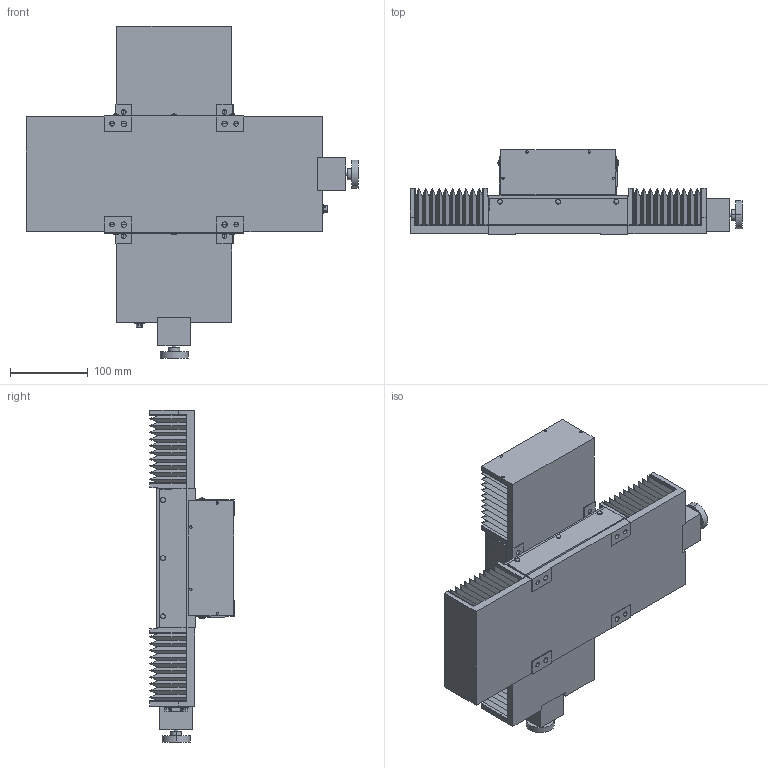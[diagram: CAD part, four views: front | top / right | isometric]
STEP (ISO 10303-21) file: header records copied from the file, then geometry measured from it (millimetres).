
FILE_DESCRIPTION (( 'STEP AP203' ), '1' );
FILE_NAME ('ALD-510-H2PB.STEP', '2008-03-11T09:06:12', ( '' ), ( '' ), 'SwSTEP 2.0', 'SolidWorks 2007', '' );
FILE_SCHEMA (( 'CONFIG_CONTROL_DESIGN' ));
Length unit declared in the file: millimetre
Products named in the file (8): ALD-510-H2PB; ALD-510-H2PB-5_蹬怮椔; ALD-510-H2PB-4_蹬怮椔; ALD-510-H2PB-3_蹬怮椔; ALD-510-H2PB-2_蹬怮椔; ALD-510-H2PB-1_蹬怮椔; ALD-510-H2PB-7_蹬怮椔; ALD-510-H2PB-6_蹬怮椔
Assembly tree (7 placements, depth 2):
  ALD-510-H2PB
    ALD-510-H2PB-3_蹬怮椔
    ALD-510-H2PB-4_蹬怮椔
    ALD-510-H2PB-2_蹬怮椔
    ALD-510-H2PB-7_蹬怮椔
    ALD-510-H2PB-1_蹬怮椔
    ALD-510-H2PB-5_蹬怮椔
    ALD-510-H2PB-6_蹬怮椔
Bounding box: 428 x 109 x 428 mm (x, y, z)
Volume: 4212259.2 mm3; surface area: 917879.9 mm2
Topology: 7 solids, 17 shells, 1332 faces, 3326 edges, 2152 vertices
Faces by surface type: plane 850, cylinder 422, cone 32, bspline 12, sphere 8, torus 8
Entity records: 43020 total; most frequent: CARTESIAN_POINT 9304, DIRECTION 6874, ORIENTED_EDGE 6652, EDGE_CURVE 3326, VECTOR 2390, LINE 2390, AXIS2_PLACEMENT_3D 2242, VERTEX_POINT 2152
